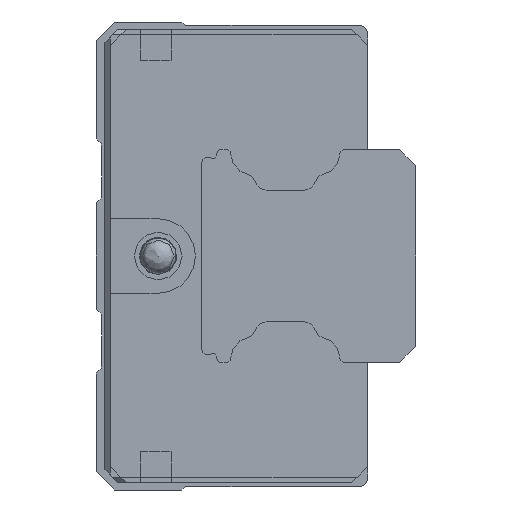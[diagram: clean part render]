
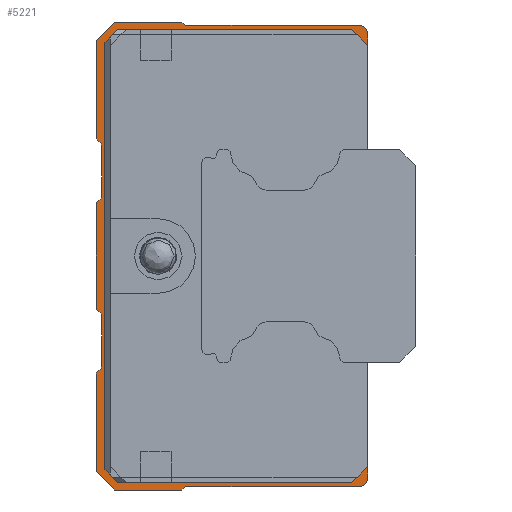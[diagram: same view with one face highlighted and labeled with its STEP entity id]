
A CAD part, left-side view. The second image highlights one B-rep face of the part: STEP entity #5221.
In plain terms, the highlighted planar face has unit normal (-1, 0, 0).
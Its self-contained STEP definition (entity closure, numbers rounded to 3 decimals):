
#62=LINE('',#8030,#402);
#71=LINE('',#8049,#411);
#78=LINE('',#8062,#418);
#104=LINE('',#8118,#444);
#112=LINE('',#8134,#452);
#118=LINE('',#8146,#458);
#143=LINE('',#8197,#483);
#148=LINE('',#8206,#488);
#150=LINE('',#8210,#490);
#154=LINE('',#8217,#494);
#158=LINE('',#8226,#498);
#161=LINE('',#8232,#501);
#165=LINE('',#8244,#505);
#169=LINE('',#8259,#509);
#173=LINE('',#8271,#513);
#176=LINE('',#8277,#516);
#179=LINE('',#8283,#519);
#182=LINE('',#8291,#522);
#185=LINE('',#8297,#525);
#189=LINE('',#8309,#529);
#193=LINE('',#8321,#533);
#196=LINE('',#8329,#536);
#199=LINE('',#8335,#539);
#203=LINE('',#8347,#543);
#207=LINE('',#8359,#547);
#210=LINE('',#8367,#550);
#402=VECTOR('',#6322,1000.);
#411=VECTOR('',#6337,1000.);
#418=VECTOR('',#6348,1000.);
#444=VECTOR('',#6388,1000.);
#452=VECTOR('',#6400,1000.);
#458=VECTOR('',#6412,1000.);
#483=VECTOR('',#6453,1000.);
#488=VECTOR('',#6460,1000.);
#490=VECTOR('',#6464,1000.);
#494=VECTOR('',#6470,1000.);
#498=VECTOR('',#6476,1000.);
#501=VECTOR('',#6481,1000.);
#505=VECTOR('',#6493,1000.);
#509=VECTOR('',#6511,1000.);
#513=VECTOR('',#6523,1000.);
#516=VECTOR('',#6528,1000.);
#519=VECTOR('',#6533,1000.);
#522=VECTOR('',#6540,1000.);
#525=VECTOR('',#6545,1000.);
#529=VECTOR('',#6557,1000.);
#533=VECTOR('',#6569,1000.);
#536=VECTOR('',#6576,1000.);
#539=VECTOR('',#6581,1000.);
#543=VECTOR('',#6593,1000.);
#547=VECTOR('',#6605,1000.);
#550=VECTOR('',#6612,1000.);
#772=PLANE('',#5645);
#1387=ORIENTED_EDGE('',*,*,#2476,.T.);
#1388=ORIENTED_EDGE('',*,*,#2483,.T.);
#1389=ORIENTED_EDGE('',*,*,#2556,.F.);
#1390=ORIENTED_EDGE('',*,*,#2578,.F.);
#1391=ORIENTED_EDGE('',*,*,#2575,.F.);
#1392=ORIENTED_EDGE('',*,*,#2572,.T.);
#1393=ORIENTED_EDGE('',*,*,#2569,.F.);
#1394=ORIENTED_EDGE('',*,*,#2566,.F.);
#1395=ORIENTED_EDGE('',*,*,#2562,.F.);
#1396=ORIENTED_EDGE('',*,*,#2637,.F.);
#1397=ORIENTED_EDGE('',*,*,#2633,.F.);
#1398=ORIENTED_EDGE('',*,*,#2630,.T.);
#1399=ORIENTED_EDGE('',*,*,#2627,.F.);
#1400=ORIENTED_EDGE('',*,*,#2624,.T.);
#1401=ORIENTED_EDGE('',*,*,#2621,.F.);
#1402=ORIENTED_EDGE('',*,*,#2618,.F.);
#1403=ORIENTED_EDGE('',*,*,#2614,.F.);
#1404=ORIENTED_EDGE('',*,*,#2611,.T.);
#1405=ORIENTED_EDGE('',*,*,#2608,.F.);
#1406=ORIENTED_EDGE('',*,*,#2605,.T.);
#1407=ORIENTED_EDGE('',*,*,#2602,.F.);
#1408=ORIENTED_EDGE('',*,*,#2599,.F.);
#1409=ORIENTED_EDGE('',*,*,#2595,.F.);
#1410=ORIENTED_EDGE('',*,*,#2592,.F.);
#1411=ORIENTED_EDGE('',*,*,#2589,.F.);
#1412=ORIENTED_EDGE('',*,*,#2586,.T.);
#1413=ORIENTED_EDGE('',*,*,#2583,.F.);
#1414=ORIENTED_EDGE('',*,*,#2580,.F.);
#1415=ORIENTED_EDGE('',*,*,#2558,.F.);
#1416=ORIENTED_EDGE('',*,*,#2518,.T.);
#1417=ORIENTED_EDGE('',*,*,#2525,.T.);
#1418=ORIENTED_EDGE('',*,*,#2510,.T.);
#1419=ORIENTED_EDGE('',*,*,#2551,.T.);
#1420=ORIENTED_EDGE('',*,*,#2466,.T.);
#2466=EDGE_CURVE('',#3140,#3139,#62,.T.);
#2476=EDGE_CURVE('',#3139,#3146,#71,.T.);
#2483=EDGE_CURVE('',#3146,#3150,#78,.T.);
#2510=EDGE_CURVE('',#3174,#3173,#104,.T.);
#2518=EDGE_CURVE('',#3180,#3179,#112,.T.);
#2525=EDGE_CURVE('',#3179,#3174,#118,.T.);
#2551=EDGE_CURVE('',#3173,#3140,#143,.T.);
#2556=EDGE_CURVE('',#3203,#3150,#148,.T.);
#2558=EDGE_CURVE('',#3180,#3205,#150,.T.);
#2562=EDGE_CURVE('',#3207,#3208,#154,.T.);
#2566=EDGE_CURVE('',#3208,#3211,#158,.T.);
#2569=EDGE_CURVE('',#3211,#3213,#161,.T.);
#2572=EDGE_CURVE('',#3215,#3213,#3636,.T.);
#2575=EDGE_CURVE('',#3215,#3217,#165,.T.);
#2578=EDGE_CURVE('',#3217,#3203,#3638,.T.);
#2580=EDGE_CURVE('',#3205,#3219,#3640,.T.);
#2583=EDGE_CURVE('',#3219,#3221,#169,.T.);
#2586=EDGE_CURVE('',#3223,#3221,#3642,.T.);
#2589=EDGE_CURVE('',#3223,#3225,#173,.T.);
#2592=EDGE_CURVE('',#3225,#3227,#176,.T.);
#2595=EDGE_CURVE('',#3227,#3229,#179,.T.);
#2599=EDGE_CURVE('',#3229,#3232,#182,.T.);
#2602=EDGE_CURVE('',#3232,#3234,#185,.T.);
#2605=EDGE_CURVE('',#3236,#3234,#3645,.T.);
#2608=EDGE_CURVE('',#3236,#3238,#189,.T.);
#2611=EDGE_CURVE('',#3240,#3238,#3647,.T.);
#2614=EDGE_CURVE('',#3240,#3242,#193,.T.);
#2618=EDGE_CURVE('',#3242,#3245,#196,.T.);
#2621=EDGE_CURVE('',#3245,#3247,#199,.T.);
#2624=EDGE_CURVE('',#3249,#3247,#3650,.T.);
#2627=EDGE_CURVE('',#3249,#3251,#203,.T.);
#2630=EDGE_CURVE('',#3253,#3251,#3652,.T.);
#2633=EDGE_CURVE('',#3253,#3255,#207,.T.);
#2637=EDGE_CURVE('',#3255,#3207,#210,.T.);
#3139=VERTEX_POINT('',#8029);
#3140=VERTEX_POINT('',#8031);
#3146=VERTEX_POINT('',#8048);
#3150=VERTEX_POINT('',#8061);
#3173=VERTEX_POINT('',#8117);
#3174=VERTEX_POINT('',#8119);
#3179=VERTEX_POINT('',#8133);
#3180=VERTEX_POINT('',#8135);
#3203=VERTEX_POINT('',#8205);
#3205=VERTEX_POINT('',#8211);
#3207=VERTEX_POINT('',#8218);
#3208=VERTEX_POINT('',#8219);
#3211=VERTEX_POINT('',#8227);
#3213=VERTEX_POINT('',#8233);
#3215=VERTEX_POINT('',#8239);
#3217=VERTEX_POINT('',#8245);
#3219=VERTEX_POINT('',#8254);
#3221=VERTEX_POINT('',#8260);
#3223=VERTEX_POINT('',#8266);
#3225=VERTEX_POINT('',#8272);
#3227=VERTEX_POINT('',#8278);
#3229=VERTEX_POINT('',#8284);
#3232=VERTEX_POINT('',#8292);
#3234=VERTEX_POINT('',#8298);
#3236=VERTEX_POINT('',#8304);
#3238=VERTEX_POINT('',#8310);
#3240=VERTEX_POINT('',#8316);
#3242=VERTEX_POINT('',#8322);
#3245=VERTEX_POINT('',#8330);
#3247=VERTEX_POINT('',#8336);
#3249=VERTEX_POINT('',#8342);
#3251=VERTEX_POINT('',#8348);
#3253=VERTEX_POINT('',#8354);
#3255=VERTEX_POINT('',#8360);
#3636=CIRCLE('',#5604,0.5);
#3638=CIRCLE('',#5608,0.8);
#3640=CIRCLE('',#5611,0.8);
#3642=CIRCLE('',#5615,0.5);
#3645=CIRCLE('',#5624,0.5);
#3647=CIRCLE('',#5628,0.5);
#3650=CIRCLE('',#5635,0.5);
#3652=CIRCLE('',#5639,0.5);
#4009=EDGE_LOOP('',(#1387,#1388,#1389,#1390,#1391,#1392,#1393,#1394,#1395,
#1396,#1397,#1398,#1399,#1400,#1401,#1402,#1403,#1404,#1405,#1406,#1407,
#1408,#1409,#1410,#1411,#1412,#1413,#1414,#1415,#1416,#1417,#1418,#1419,
#1420));
#4619=FACE_BOUND('',#4009,.T.);
#5221=ADVANCED_FACE('',(#4619),#772,.F.);
#5604=AXIS2_PLACEMENT_3D('',#8238,#6486,#6487);
#5608=AXIS2_PLACEMENT_3D('',#8250,#6498,#6499);
#5611=AXIS2_PLACEMENT_3D('',#8253,#6504,#6505);
#5615=AXIS2_PLACEMENT_3D('',#8265,#6516,#6517);
#5624=AXIS2_PLACEMENT_3D('',#8303,#6550,#6551);
#5628=AXIS2_PLACEMENT_3D('',#8315,#6562,#6563);
#5635=AXIS2_PLACEMENT_3D('',#8341,#6586,#6587);
#5639=AXIS2_PLACEMENT_3D('',#8353,#6598,#6599);
#5645=AXIS2_PLACEMENT_3D('',#8370,#6616,#6617);
#6322=DIRECTION('',(0.,-0.707,0.707));
#6337=DIRECTION('',(0.,-1.,0.));
#6348=DIRECTION('',(0.,-0.707,-0.707));
#6388=DIRECTION('',(0.,0.707,0.707));
#6400=DIRECTION('',(0.,0.707,-0.707));
#6412=DIRECTION('',(0.,1.,0.));
#6453=DIRECTION('',(0.,0.,1.));
#6460=DIRECTION('',(0.,0.,-1.));
#6464=DIRECTION('',(0.,0.,-1.));
#6470=DIRECTION('',(0.,-0.707,0.707));
#6476=DIRECTION('',(0.,-1.,0.));
#6481=DIRECTION('',(0.,-0.707,-0.707));
#6486=DIRECTION('',(1.,0.,0.));
#6487=DIRECTION('',(0.,0.,-1.));
#6493=DIRECTION('',(0.,-1.,0.));
#6498=DIRECTION('',(1.,0.,0.));
#6499=DIRECTION('',(0.,0.,-1.));
#6504=DIRECTION('',(1.,0.,0.));
#6505=DIRECTION('',(0.,0.,-1.));
#6511=DIRECTION('',(0.,1.,0.));
#6516=DIRECTION('',(1.,0.,0.));
#6517=DIRECTION('',(0.,0.,-1.));
#6523=DIRECTION('',(0.,0.707,-0.707));
#6528=DIRECTION('',(0.,1.,0.));
#6533=DIRECTION('',(0.,0.707,0.707));
#6540=DIRECTION('',(0.,0.,1.));
#6545=DIRECTION('',(0.,-0.707,0.707));
#6550=DIRECTION('',(1.,0.,0.));
#6551=DIRECTION('',(0.,0.,-1.));
#6557=DIRECTION('',(0.,0.,1.));
#6562=DIRECTION('',(1.,0.,0.));
#6563=DIRECTION('',(0.,0.,-1.));
#6569=DIRECTION('',(0.,0.707,0.707));
#6576=DIRECTION('',(0.,0.,1.));
#6581=DIRECTION('',(0.,-0.707,0.707));
#6586=DIRECTION('',(1.,0.,0.));
#6587=DIRECTION('',(0.,0.,-1.));
#6593=DIRECTION('',(0.,0.,1.));
#6598=DIRECTION('',(1.,0.,0.));
#6599=DIRECTION('',(0.,0.,-1.));
#6605=DIRECTION('',(0.,0.707,0.707));
#6612=DIRECTION('',(0.,0.,1.));
#6616=DIRECTION('',(1.,0.,0.));
#6617=DIRECTION('',(0.,0.,-1.));
#8029=CARTESIAN_POINT('',(-17.05,23.5,21.3));
#8030=CARTESIAN_POINT('',(-17.05,24.7,20.1));
#8031=CARTESIAN_POINT('',(-17.05,24.7,20.1));
#8048=CARTESIAN_POINT('',(-17.05,1.5,21.3));
#8049=CARTESIAN_POINT('',(-17.05,23.5,21.3));
#8061=CARTESIAN_POINT('',(-17.05,0.,19.8));
#8062=CARTESIAN_POINT('',(-17.05,1.5,21.3));
#8117=CARTESIAN_POINT('',(-17.05,24.7,-20.1));
#8118=CARTESIAN_POINT('',(-17.05,23.5,-21.3));
#8119=CARTESIAN_POINT('',(-17.05,23.5,-21.3));
#8133=CARTESIAN_POINT('',(-17.05,1.5,-21.3));
#8134=CARTESIAN_POINT('',(-17.05,0.,-19.8));
#8135=CARTESIAN_POINT('',(-17.05,0.,-19.8));
#8146=CARTESIAN_POINT('',(-17.05,1.5,-21.3));
#8197=CARTESIAN_POINT('',(-17.05,24.7,-20.1));
#8205=CARTESIAN_POINT('',(-17.05,0.,20.9));
#8206=CARTESIAN_POINT('',(-17.05,0.,20.9));
#8210=CARTESIAN_POINT('',(-17.05,0.,20.9));
#8211=CARTESIAN_POINT('',(-17.05,0.,-20.9));
#8217=CARTESIAN_POINT('',(-17.05,25.5,20.3));
#8218=CARTESIAN_POINT('',(-17.05,25.5,20.3));
#8219=CARTESIAN_POINT('',(-17.05,23.8,22.));
#8226=CARTESIAN_POINT('',(-17.05,23.8,22.));
#8227=CARTESIAN_POINT('',(-17.05,17.5,22.));
#8232=CARTESIAN_POINT('',(-17.05,17.5,22.));
#8233=CARTESIAN_POINT('',(-17.05,17.346,21.846));
#8238=CARTESIAN_POINT('',(-17.05,16.993,22.2));
#8239=CARTESIAN_POINT('',(-17.05,16.993,21.7));
#8244=CARTESIAN_POINT('',(-17.05,16.993,21.7));
#8245=CARTESIAN_POINT('',(-17.05,0.8,21.7));
#8250=CARTESIAN_POINT('',(-17.05,0.8,20.9));
#8253=CARTESIAN_POINT('',(-17.05,0.8,-20.9));
#8254=CARTESIAN_POINT('',(-17.05,0.8,-21.7));
#8259=CARTESIAN_POINT('',(-17.05,0.8,-21.7));
#8260=CARTESIAN_POINT('',(-17.05,16.993,-21.7));
#8265=CARTESIAN_POINT('',(-17.05,16.993,-22.2));
#8266=CARTESIAN_POINT('',(-17.05,17.346,-21.846));
#8271=CARTESIAN_POINT('',(-17.05,17.346,-21.846));
#8272=CARTESIAN_POINT('',(-17.05,17.5,-22.));
#8277=CARTESIAN_POINT('',(-17.05,17.5,-22.));
#8278=CARTESIAN_POINT('',(-17.05,23.8,-22.));
#8283=CARTESIAN_POINT('',(-17.05,23.8,-22.));
#8284=CARTESIAN_POINT('',(-17.05,25.5,-20.3));
#8291=CARTESIAN_POINT('',(-17.05,25.5,-20.3));
#8292=CARTESIAN_POINT('',(-17.05,25.5,-11.));
#8297=CARTESIAN_POINT('',(-17.05,25.5,-11.));
#8298=CARTESIAN_POINT('',(-17.05,25.146,-10.646));
#8303=CARTESIAN_POINT('',(-17.05,25.5,-10.293));
#8304=CARTESIAN_POINT('',(-17.05,25.,-10.293));
#8309=CARTESIAN_POINT('',(-17.05,25.,-10.293));
#8310=CARTESIAN_POINT('',(-17.05,25.,-5.707));
#8315=CARTESIAN_POINT('',(-17.05,25.5,-5.707));
#8316=CARTESIAN_POINT('',(-17.05,25.146,-5.354));
#8321=CARTESIAN_POINT('',(-17.05,25.146,-5.354));
#8322=CARTESIAN_POINT('',(-17.05,25.5,-5.));
#8329=CARTESIAN_POINT('',(-17.05,25.5,-5.));
#8330=CARTESIAN_POINT('',(-17.05,25.5,5.));
#8335=CARTESIAN_POINT('',(-17.05,25.5,5.));
#8336=CARTESIAN_POINT('',(-17.05,25.146,5.354));
#8341=CARTESIAN_POINT('',(-17.05,25.5,5.707));
#8342=CARTESIAN_POINT('',(-17.05,25.,5.707));
#8347=CARTESIAN_POINT('',(-17.05,25.,5.707));
#8348=CARTESIAN_POINT('',(-17.05,25.,10.293));
#8353=CARTESIAN_POINT('',(-17.05,25.5,10.293));
#8354=CARTESIAN_POINT('',(-17.05,25.146,10.646));
#8359=CARTESIAN_POINT('',(-17.05,25.146,10.646));
#8360=CARTESIAN_POINT('',(-17.05,25.5,11.));
#8367=CARTESIAN_POINT('',(-17.05,25.5,11.));
#8370=CARTESIAN_POINT('',(-17.05,16.993,22.2));
